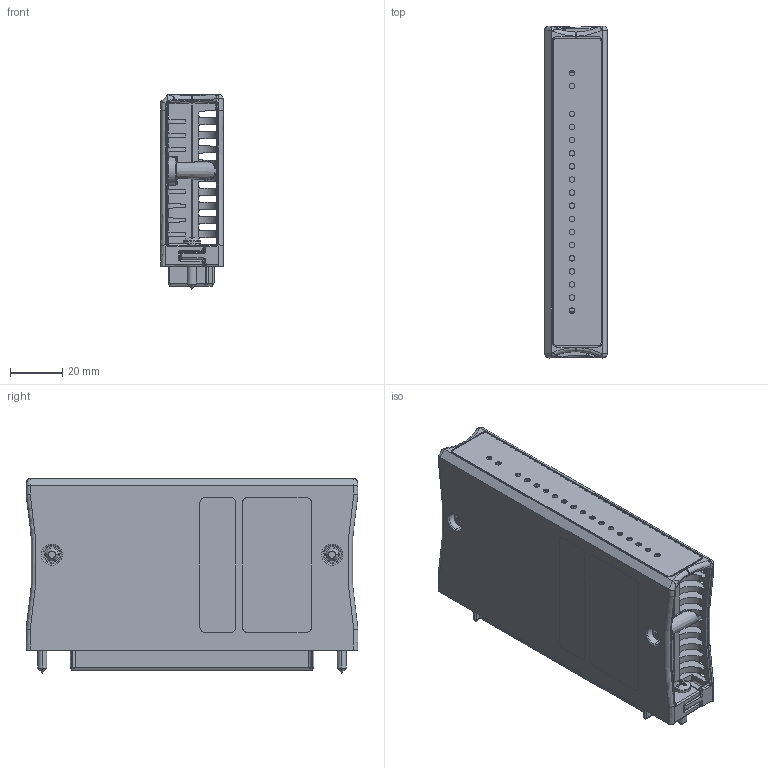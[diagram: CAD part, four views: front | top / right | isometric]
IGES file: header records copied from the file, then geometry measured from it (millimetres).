
Start section:  PTC IGES file: cfp_iomod_single.igs
Global section: file name: cfp_iomod_single.igs; native system: Pro/ENGINEER by Parametric Technology Corporation; preprocessor: 2006300; author: chrisj; organization: Unknown; date: 20070305.153812; units: inch
Bounding box: 23.88 x 127.06 x 74.53 mm (x, y, z)
Surface area: 61491.4 mm2 (no closed solid volume)
Topology: 0 solids, 0 shells, 3274 faces, 17794 edges, 17746 vertices
Faces by surface type: bspline 2431, revolution 843
